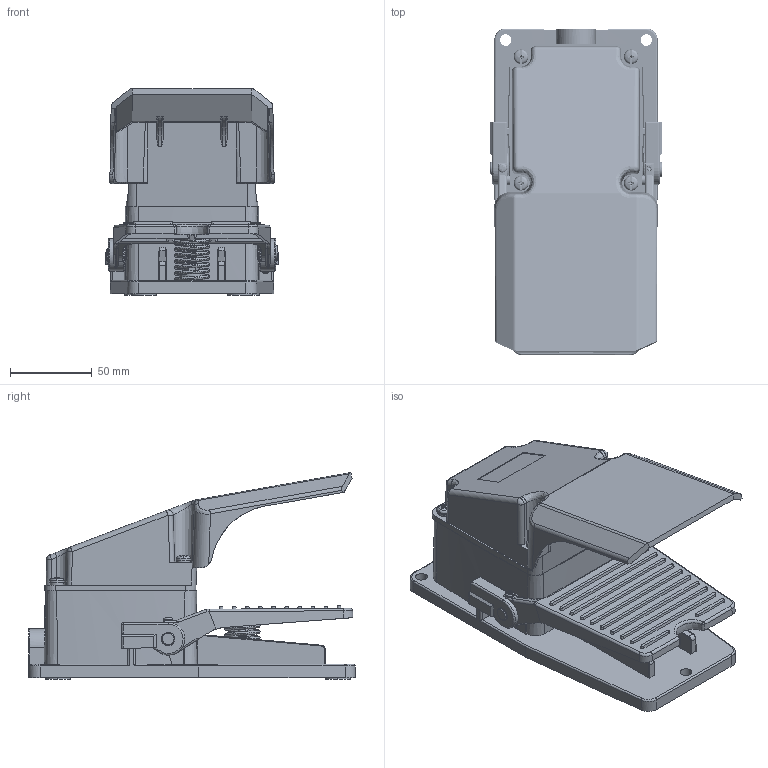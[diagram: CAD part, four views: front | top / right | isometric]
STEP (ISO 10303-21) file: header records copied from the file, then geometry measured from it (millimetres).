
FILE_DESCRIPTION((''),'2;1');
FILE_NAME('PRT0009','2016-09-12T',('ABS'),(''),'PRO/ENGINEER BY PARAMETRIC TECHNOLOGY CORPORATION, 2012360','PRO/ENGINEER BY PARAMETRIC TECHNOLOGY CORPORATION, 2012360','');
FILE_SCHEMA(('CONFIG_CONTROL_DESIGN'));
Products named in the file (1): PRT0009
Bounding box: 105.5 x 200 x 126.51 mm (x, y, z)
Volume: 346398.6 mm3; surface area: 193274.3 mm2
Topology: 1 solids, 4 shells, 1986 faces, 5569 edges, 3592 vertices
Faces by surface type: cylinder 670, plane 646, bspline 420, cone 129, torus 66, sphere 28, extrusion 27
Entity records: 106420 total; most frequent: CARTESIAN_POINT 60154, ORIENTED_EDGE 11074, DIRECTION 7484, EDGE_CURVE 5537, VERTEX_POINT 3592, AXIS2_PLACEMENT_3D 2560, VECTOR 2364, LINE 2337
